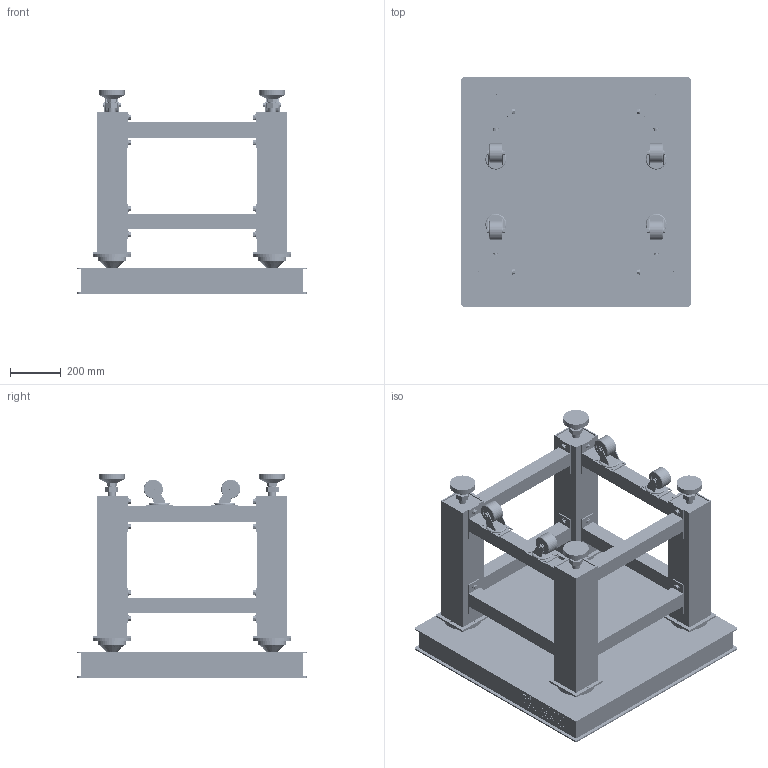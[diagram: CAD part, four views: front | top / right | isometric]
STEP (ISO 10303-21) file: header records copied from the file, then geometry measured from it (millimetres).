
FILE_DESCRIPTION (( 'STEP AP214' ), '1' );
FILE_NAME ('900℅900℅100+120袪倛郯攝路淥す怢.STEP', '2024-10-10T06:25:04', ( '' ), ( '' ), 'SwSTEP 2.0', 'SolidWorks 2022', '' );
FILE_SCHEMA (( 'AUTOMOTIVE_DESIGN' ));
Length unit declared in the file: millimetre
Products named in the file (1): 900×900×100+120锥形阻尼隔振平台
Bounding box: 900 x 900 x 800 mm (x, y, z)
Volume: 128386228.4 mm3; surface area: 5483941.5 mm2
Topology: 57 solids, 57 shells, 8246 faces, 19490 edges, 12800 vertices
Faces by surface type: plane 4054, cylinder 4052, cone 64, bspline 60, torus 16
Entity records: 292250 total; most frequent: CARTESIAN_POINT 98301, DIRECTION 41412, ORIENTED_EDGE 38980, EDGE_CURVE 19490, AXIS2_PLACEMENT_3D 15359, VERTEX_POINT 12800, LINE 10694, VECTOR 10694
